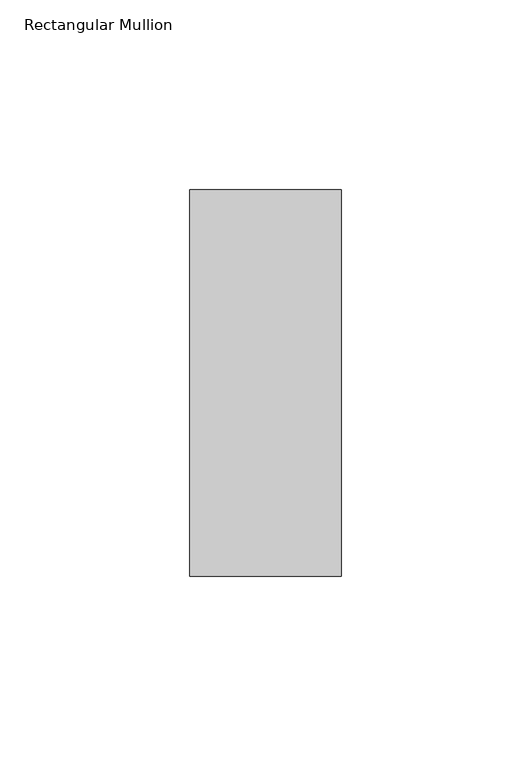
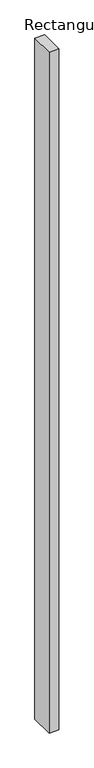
"""IFC4 building model written with IfcOpenShell, lengths in millimetres: member geometry, Rectangular Mullion : RSen_21_CWM_support profile - 40x102_gen_duco projects."""

from ifc_helpers import new_model, si_unit, frame, origin, place, context, project, spatial, polyline, outline, extrude, source, transform, mapped, element, save


def rectangular_mullion_b1fd9634(model_context):
    return source(origin(), model_context, "Body", "SweptSolid", [
        extrude(outline(polyline([(20.0, 1.0), (20.0, -101.0), (-20.0, -101.0), (-20.0, 1.0), (20.0, 1.0)])), frame((0.0, 0.0, -3000.0), z_axis=(0.0, 0.0, 1.0), x_axis=(1.0, 0.0, 0.0)), (0.0, 0.0, 1.0), 3000.0),
    ])


if __name__ == "__main__":
    model = new_model("IFC4")
    model_context = context("Model", 3, world=origin())
    ifc_project = project(units=[si_unit("LENGTHUNIT", "METRE", prefix="MILLI")], contexts=[model_context])
    site = spatial("IfcSite", under=ifc_project)
    building = spatial("IfcBuilding", under=site)
    placement = place(None, origin())
    rectangular_mullion_shape = rectangular_mullion_b1fd9634(model_context)
    element("IfcMember", 1, ObjectType="Rectangular Mullion : RSen_21_CWM_support profile - 40x102_gen_duco projects", at=placement, inside=building, context=model_context, shape_type="MappedRepresentation", body=[
        mapped(rectangular_mullion_shape, transform((0.0, 0.0, 0.0), x_axis=(1.0, 0.0, 0.0), y_axis=(0.0, 1.0, 0.0), z_axis=(0.0, 0.0, 1.0))),
    ])
    save(model, "model.ifc")
